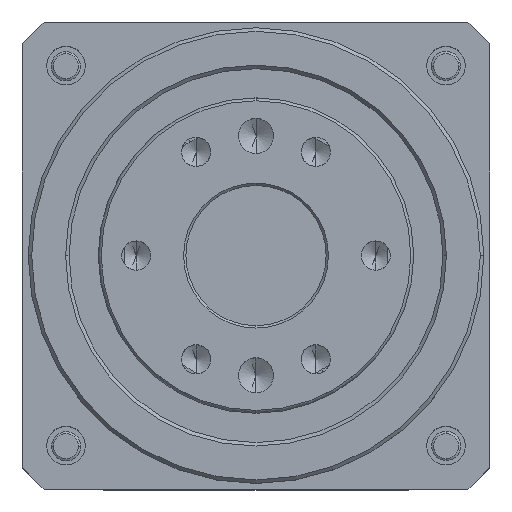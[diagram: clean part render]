
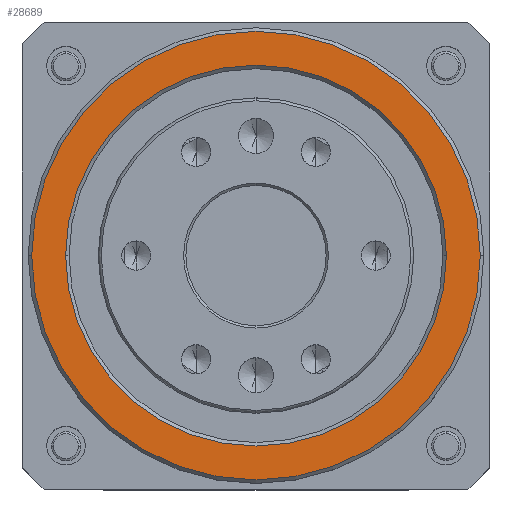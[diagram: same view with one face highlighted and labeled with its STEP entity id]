
A CAD part, top view. The second image highlights one B-rep face of the part: STEP entity #28689.
In plain terms, the highlighted planar face has unit normal (0, 0, 1).
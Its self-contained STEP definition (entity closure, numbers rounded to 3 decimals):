
#156 = ORIENTED_EDGE ( 'NONE', *, *, #13395, .T. ) ;
#2277 = CARTESIAN_POINT ( 'NONE',  ( 0., 0., 29.5 ) ) ;
#2572 = CARTESIAN_POINT ( 'NONE',  ( -16.3, 0., 29.5 ) ) ;
#2829 = FACE_OUTER_BOUND ( 'NONE', #3283, .T. ) ;
#3283 = EDGE_LOOP ( 'NONE', ( #14212, #156 ) ) ;
#6885 = DIRECTION ( 'NONE',  ( 0., 0., 1. ) ) ;
#6987 = EDGE_LOOP ( 'NONE', ( #9362, #26224 ) ) ;
#7012 = CARTESIAN_POINT ( 'NONE',  ( 16.3, 0., 29.5 ) ) ;
#7579 = CIRCLE ( 'NONE', #17962, 16.3 ) ;
#7887 = EDGE_CURVE ( 'NONE', #21990, #18721, #28431, .T. ) ;
#8692 = AXIS2_PLACEMENT_3D ( 'NONE', #21253, #6885, #23599 ) ;
#8732 = VERTEX_POINT ( 'NONE', #15829 ) ;
#9362 = ORIENTED_EDGE ( 'NONE', *, *, #23417, .T. ) ;
#9452 = DIRECTION ( 'NONE',  ( 1., 0., 0. ) ) ;
#10449 = DIRECTION ( 'NONE',  ( 0., 0., 1. ) ) ;
#11197 = EDGE_CURVE ( 'NONE', #28837, #8732, #19232, .T. ) ;
#12666 = DIRECTION ( 'NONE',  ( 0., 0., -1. ) ) ;
#13359 = DIRECTION ( 'NONE',  ( 0., 0., -1. ) ) ;
#13395 = EDGE_CURVE ( 'NONE', #8732, #28837, #18807, .T. ) ;
#14212 = ORIENTED_EDGE ( 'NONE', *, *, #11197, .T. ) ;
#15829 = CARTESIAN_POINT ( 'NONE',  ( 19.2, 0., 29.5 ) ) ;
#16215 = AXIS2_PLACEMENT_3D ( 'NONE', #26943, #12666, #29291 ) ;
#17765 = AXIS2_PLACEMENT_3D ( 'NONE', #24729, #10449, #27136 ) ;
#17772 = AXIS2_PLACEMENT_3D ( 'NONE', #2277, #23755, #9452 ) ;
#17962 = AXIS2_PLACEMENT_3D ( 'NONE', #27612, #13359, #29976 ) ;
#18721 = VERTEX_POINT ( 'NONE', #7012 ) ;
#18807 = CIRCLE ( 'NONE', #17765, 19.2 ) ;
#19232 = CIRCLE ( 'NONE', #8692, 19.2 ) ;
#21164 = FACE_BOUND ( 'NONE', #6987, .T. ) ;
#21253 = CARTESIAN_POINT ( 'NONE',  ( 0., 0., 29.5 ) ) ;
#21990 = VERTEX_POINT ( 'NONE', #2572 ) ;
#23417 = EDGE_CURVE ( 'NONE', #18721, #21990, #7579, .T. ) ;
#23599 = DIRECTION ( 'NONE',  ( 1., 0., 0. ) ) ;
#23640 = PLANE ( 'NONE',  #17772 ) ;
#23755 = DIRECTION ( 'NONE',  ( 0., 0., 1. ) ) ;
#24729 = CARTESIAN_POINT ( 'NONE',  ( 0., 0., 29.5 ) ) ;
#26224 = ORIENTED_EDGE ( 'NONE', *, *, #7887, .T. ) ;
#26649 = CARTESIAN_POINT ( 'NONE',  ( -19.2, 0., 29.5 ) ) ;
#26943 = CARTESIAN_POINT ( 'NONE',  ( 0., 0., 29.5 ) ) ;
#27136 = DIRECTION ( 'NONE',  ( 1., 0., 0. ) ) ;
#27612 = CARTESIAN_POINT ( 'NONE',  ( 0., 0., 29.5 ) ) ;
#28431 = CIRCLE ( 'NONE', #16215, 16.3 ) ;
#28689 = ADVANCED_FACE ( 'NONE', ( #2829, #21164 ), #23640, .T. ) ;
#28837 = VERTEX_POINT ( 'NONE', #26649 ) ;
#29291 = DIRECTION ( 'NONE',  ( 1., 0., 0. ) ) ;
#29976 = DIRECTION ( 'NONE',  ( 1., 0., 0. ) ) ;
